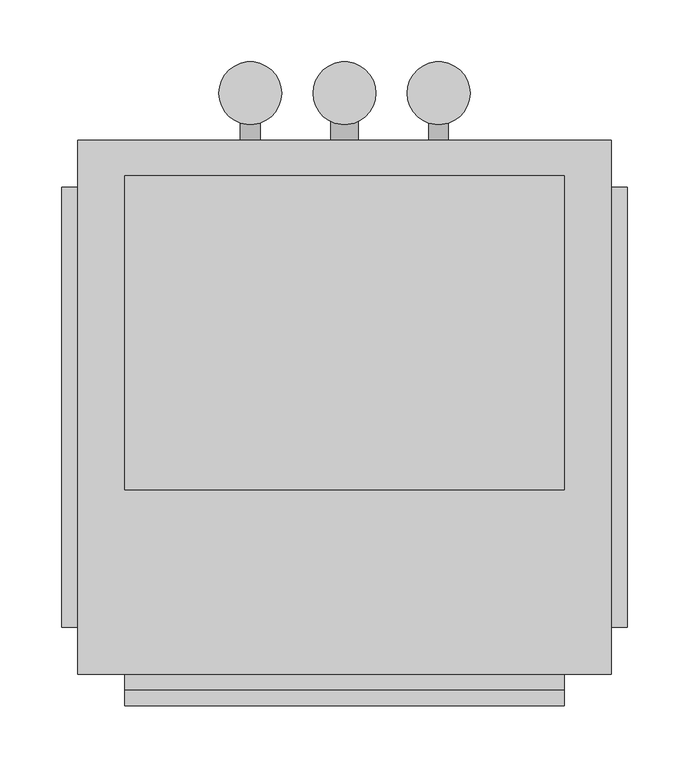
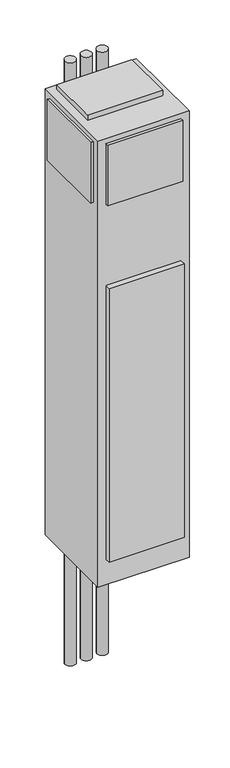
"""IFC4 building model written with IfcOpenShell, lengths in millimetres: proxy geometry, Concealed_Universal_Modular_Fan_Coil_Unit_-_42SUB_-_CARRIER_-_2-Pipe_Cool-EHeat_-_WithRisers_2022 : Size 03 - 277v/60Hz/1Ph - 4 Row 3.0kW."""

from ifc_helpers import new_model, si_unit, point, frame, frame_2d, origin, origin_with_axes, place, context, project, spatial, polyline, circle_curve, trimmed, segment, composite_curve, outline, extrude, source, transform, mapped, element, save


def mechanical_equipment_e8b0c8a9(model_context):
    return source(origin(), model_context, "Body", "SweptSolid", [
        extrude(outline(composite_curve([segment(trimmed(circle_curve(frame_2d((292.1, 282.575)), 25.4), [point((266.7, 282.575))], [point((317.5, 282.575))], False, "CARTESIAN"), True, "CONTINUOUS"), segment(trimmed(circle_curve(frame_2d((292.1, 282.575)), 25.4), [point((317.5, 282.575))], [point((266.7, 282.575))], False, "CARTESIAN"), True, "CONTINUOUS")], self_intersect=False)), frame((0.0, 0.0, -711.2), z_axis=(0.0, 0.0, 1.0), x_axis=(1.0, 0.0, 0.0)), (0.0, 0.0, 1.0), 3022.6),
        extrude(outline(composite_curve([segment(trimmed(circle_curve(frame_2d((368.3, 282.575)), 25.4), [point((342.9, 282.575))], [point((393.7, 282.575))], False, "CARTESIAN"), True, "CONTINUOUS"), segment(trimmed(circle_curve(frame_2d((368.3, 282.575)), 25.4), [point((393.7, 282.575))], [point((342.9, 282.575))], False, "CARTESIAN"), True, "CONTINUOUS")], self_intersect=False)), frame((0.0, 0.0, -711.2), z_axis=(0.0, 0.0, 1.0), x_axis=(1.0, 0.0, 0.0)), (0.0, 0.0, 1.0), 3022.6),
        extrude(outline(composite_curve([segment(trimmed(circle_curve(frame_2d((444.5, 282.575)), 25.4), [point((419.1, 282.575))], [point((469.9, 282.575))], False, "CARTESIAN"), True, "CONTINUOUS"), segment(trimmed(circle_curve(frame_2d((444.5, 282.575)), 25.4), [point((469.9, 282.575))], [point((419.1, 282.575))], False, "CARTESIAN"), True, "CONTINUOUS")], self_intersect=False)), frame((0.0, 0.0, -711.2), z_axis=(0.0, 0.0, 1.0), x_axis=(1.0, 0.0, 0.0)), (0.0, 0.0, 1.0), 3022.6),
        extrude(outline(composite_curve([segment(trimmed(circle_curve(frame_2d((990.6, 444.5)), 7.9375), [point((990.6, 436.5625))], [point((990.6, 452.4375))], False, "CARTESIAN"), True, "CONTINUOUS"), segment(trimmed(circle_curve(frame_2d((990.6, 444.5)), 7.9375), [point((990.6, 452.4375))], [point((990.6, 436.5625))], False, "CARTESIAN"), True, "CONTINUOUS")], self_intersect=False)), frame((0.0, 244.475, 0.0), z_axis=(0.0, 1.0, 0.0), x_axis=(0.0, 0.0, 1.0)), (0.0, 0.0, 1.0), 50.8),
        extrude(outline(composite_curve([segment(trimmed(circle_curve(frame_2d((990.6, 292.1)), 7.9375), [point((990.6, 284.1625))], [point((990.6, 300.0375))], False, "CARTESIAN"), True, "CONTINUOUS"), segment(trimmed(circle_curve(frame_2d((990.6, 292.1)), 7.9375), [point((990.6, 300.0375))], [point((990.6, 284.1625))], False, "CARTESIAN"), True, "CONTINUOUS")], self_intersect=False)), frame((0.0, 244.475, 0.0), z_axis=(0.0, 1.0, 0.0), x_axis=(0.0, 0.0, 1.0)), (0.0, 0.0, 1.0), 50.8),
        extrude(outline(composite_curve([segment(trimmed(circle_curve(frame_2d((76.2, 368.3)), 11.1125), [point((76.2, 357.1875))], [point((76.2, 379.4125))], False, "CARTESIAN"), True, "CONTINUOUS"), segment(trimmed(circle_curve(frame_2d((76.2, 368.3)), 11.1125), [point((76.2, 379.4125))], [point((76.2, 357.1875))], False, "CARTESIAN"), True, "CONTINUOUS")], self_intersect=False)), frame((0.0, 244.475, 0.0), z_axis=(0.0, 1.0, 0.0), x_axis=(0.0, 0.0, 1.0)), (0.0, 0.0, 1.0), 50.8),
        extrude(outline(polyline([(546.1, 215.9), (546.1, -38.1), (190.5, -38.1), (190.5, 215.9), (546.1, 215.9)])), frame((0.0, 0.0, 2235.2), z_axis=(0.0, 0.0, 1.0), x_axis=(1.0, 0.0, 0.0)), (0.0, 0.0, 1.0), 25.4),
        extrude(outline(polyline([(139.7, -149.225), (139.7, 206.375), (152.4, 206.375), (152.4, -149.225), (139.7, -149.225)])), frame((0.0, 0.0, 1905.0), z_axis=(0.0, 0.0, 1.0), x_axis=(1.0, 0.0, 0.0)), (0.0, 0.0, 1.0), 304.8),
        extrude(outline(polyline([(596.9, 206.375), (596.9, -149.225), (584.2, -149.225), (584.2, 206.375), (596.9, 206.375)])), frame((0.0, 0.0, 1905.0), z_axis=(0.0, 0.0, 1.0), x_axis=(1.0, 0.0, 0.0)), (0.0, 0.0, 1.0), 304.8),
        extrude(outline(polyline([(546.1, -200.025), (190.5, -200.025), (190.5, -187.325), (546.1, -187.325), (546.1, -200.025)])), frame((0.0, 0.0, 1905.0), z_axis=(0.0, 0.0, 1.0), x_axis=(1.0, 0.0, 0.0)), (0.0, 0.0, 1.0), 304.8),
        extrude(outline(polyline([(546.1, -212.725), (190.5, -212.725), (190.5, -187.325), (546.1, -187.325), (546.1, -212.725)])), frame((0.0, 0.0, 127.0), z_axis=(0.0, 0.0, 1.0), x_axis=(1.0, 0.0, 0.0)), (0.0, 0.0, 1.0), 1371.6),
        extrude(outline(polyline([(584.2, 244.475), (584.2, -187.325), (152.4, -187.325), (152.4, 244.475), (584.2, 244.475)])), origin_with_axes(), (0.0, 0.0, 1.0), 2235.2),
    ])


if __name__ == "__main__":
    model = new_model("IFC4")
    model_context = context("Model", 3, world=origin())
    ifc_project = project(units=[si_unit("LENGTHUNIT", "METRE", prefix="MILLI")], contexts=[model_context])
    site = spatial("IfcSite", under=ifc_project)
    building = spatial("IfcBuilding", under=site)
    placement = place(None, origin())
    mechanical_equipment_shape = mechanical_equipment_e8b0c8a9(model_context)
    element("IfcBuildingElementProxy", 1, Name="Concealed_Universal_Modular_Fan_Coil_Unit_-_42SUB_-_CARRIER_-_2-Pipe_Cool-EHeat_-_WithRisers_2022 : Size 03 - 277v/60Hz/1Ph - 4 Row 3.0kW", ObjectType="Concealed_Universal_Modular_Fan_Coil_Unit_-_42SUB_-_CARRIER_-_2-Pipe_Cool-EHeat_-_WithRisers_2022 : Size 03 - 277v/60Hz/1Ph - 4 Row 3.0kW", at=placement, inside=building, context=model_context, shape_type="MappedRepresentation", body=[
        mapped(mechanical_equipment_shape, transform((0.0, 0.0, 0.0), x_axis=(1.0, 0.0, 0.0), y_axis=(0.0, 1.0, 0.0), z_axis=(0.0, 0.0, 1.0))),
    ])
    save(model, "model.ifc")
